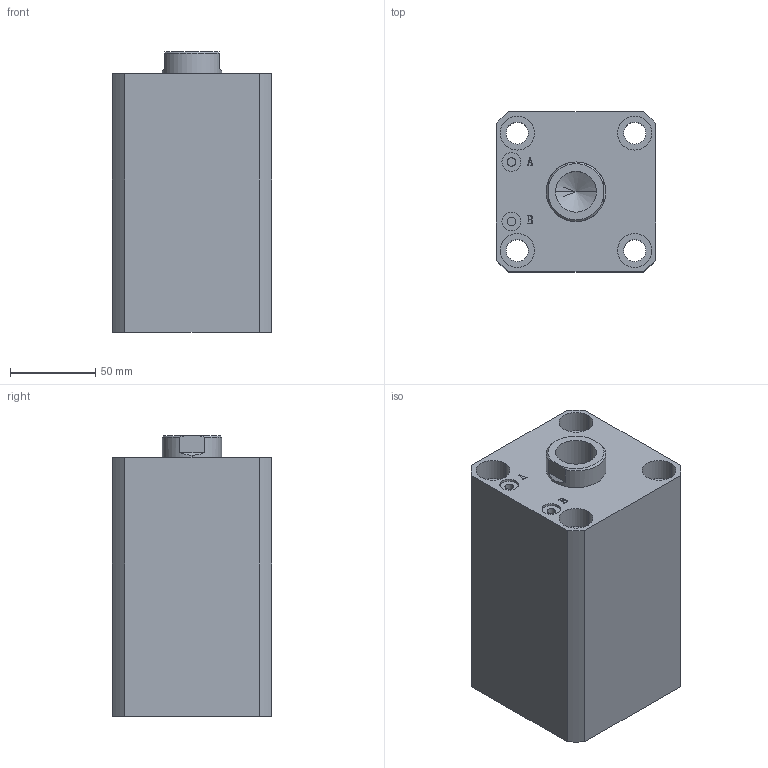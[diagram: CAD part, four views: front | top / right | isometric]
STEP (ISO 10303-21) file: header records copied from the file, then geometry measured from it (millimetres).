
FILE_DESCRIPTION (( 'STEP AP203' ), '1' );
FILE_NAME ('HTB-SDMA63-85N.STEP', '2019-10-08T01:14:42', ( '微软用户' ), ( '微软中国' ), 'SwSTEP 2.0', 'SolidWorks 2012', '' );
FILE_SCHEMA (( 'CONFIG_CONTROL_DESIGN' ));
Length unit declared in the file: millimetre
Products named in the file (3): HTB-SDMA63-85N; HTB-SDMA63-85N活塞杆; HTB-SDMA63-85掛极
Assembly tree (2 placements, depth 2):
  HTB-SDMA63-85N
    HTB-SDMA63-85掛极
    HTB-SDMA63-85N活塞杆
Bounding box: 94 x 94 x 165 mm (x, y, z)
Volume: 1037707.5 mm3; surface area: 153985.8 mm2
Topology: 2 solids, 2 shells, 137 faces, 331 edges, 217 vertices
Faces by surface type: plane 65, cylinder 46, bspline 16, torus 6, cone 4
Entity records: 5070 total; most frequent: CARTESIAN_POINT 1576, ORIENTED_EDGE 658, DIRECTION 647, EDGE_CURVE 329, AXIS2_PLACEMENT_3D 232, VERTEX_POINT 217, LINE 183, VECTOR 183
